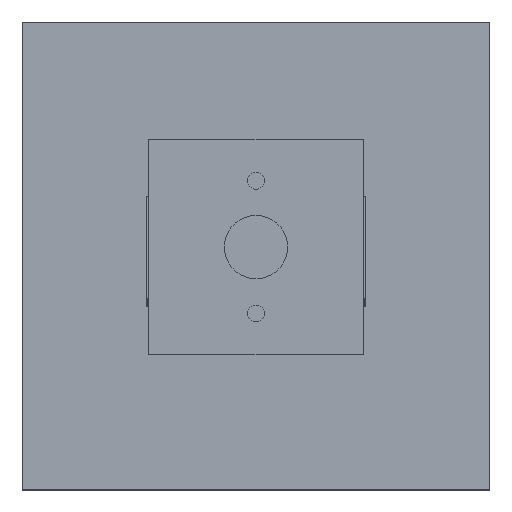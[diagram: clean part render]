
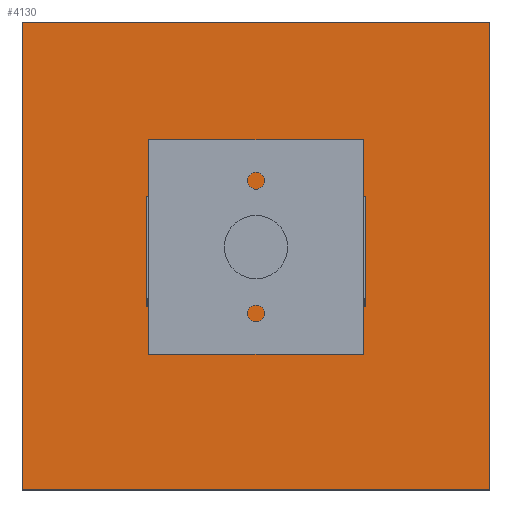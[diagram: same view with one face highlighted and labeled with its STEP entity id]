
A CAD part, top view. The second image highlights one B-rep face of the part: STEP entity #4130.
In plain terms, the highlighted planar face has unit normal (0, 0, 1).
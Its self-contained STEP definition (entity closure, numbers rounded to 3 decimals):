
#4130 = ADVANCED_FACE( '', ( #8896, #8897 ), #8898, .F. );
#8896 = FACE_BOUND( '', #14261, .T. );
#8897 = FACE_OUTER_BOUND( '', #14262, .T. );
#8898 = PLANE( '', #14263 );
#14261 = EDGE_LOOP( '', ( #27089 ) );
#14262 = EDGE_LOOP( '', ( #27090, #27091, #27092, #27093 ) );
#14263 = AXIS2_PLACEMENT_3D( '', #27094, #27095, #27096 );
#27089 = ORIENTED_EDGE( '', *, *, #35036, .F. );
#27090 = ORIENTED_EDGE( '', *, *, #37204, .T. );
#27091 = ORIENTED_EDGE( '', *, *, #34950, .F. );
#27092 = ORIENTED_EDGE( '', *, *, #32984, .F. );
#27093 = ORIENTED_EDGE( '', *, *, #37974, .T. );
#27094 = CARTESIAN_POINT( '', ( 60., 60., -1279.36 ) );
#27095 = DIRECTION( '', ( 0., 0., -1. ) );
#27096 = DIRECTION( '', ( -1., 0., 0. ) );
#32984 = EDGE_CURVE( '', #39892, #39893, #39894, .T. );
#34950 = EDGE_CURVE( '', #39893, #43269, #43273, .T. );
#35036 = EDGE_CURVE( '', #43406, #43406, #43407, .F. );
#37204 = EDGE_CURVE( '', #46618, #43269, #46619, .T. );
#37974 = EDGE_CURVE( '', #39892, #46618, #47599, .T. );
#39892 = VERTEX_POINT( '', #49987 );
#39893 = VERTEX_POINT( '', #49988 );
#39894 = LINE( '', #49989, #49990 );
#43269 = VERTEX_POINT( '', #54890 );
#43273 = LINE( '', #54896, #54897 );
#43406 = VERTEX_POINT( '', #55089 );
#43407 = CIRCLE( '', #55090, 7.52 );
#46618 = VERTEX_POINT( '', #59885 );
#46619 = LINE( '', #59886, #59887 );
#47599 = LINE( '', #61366, #61367 );
#49987 = CARTESIAN_POINT( '', ( 60., 60., -1279.36 ) );
#49988 = CARTESIAN_POINT( '', ( 60., -60., -1279.36 ) );
#49989 = CARTESIAN_POINT( '', ( 60., 60., -1279.36 ) );
#49990 = VECTOR( '', #63475, 1000. );
#54890 = CARTESIAN_POINT( '', ( -60., -60., -1279.36 ) );
#54896 = CARTESIAN_POINT( '', ( 60., -60., -1279.36 ) );
#54897 = VECTOR( '', #65261, 1000. );
#55089 = CARTESIAN_POINT( '', ( -7.52, 0., -1279.36 ) );
#55090 = AXIS2_PLACEMENT_3D( '', #65333, #65334, #65335 );
#59885 = CARTESIAN_POINT( '', ( -60., 60., -1279.36 ) );
#59886 = CARTESIAN_POINT( '', ( -60., 60., -1279.36 ) );
#59887 = VECTOR( '', #67178, 1000. );
#61366 = CARTESIAN_POINT( '', ( 60., 60., -1279.36 ) );
#61367 = VECTOR( '', #67783, 1000. );
#63475 = DIRECTION( '', ( 0., -1., 0. ) );
#65261 = DIRECTION( '', ( -1., 0., 0. ) );
#65333 = CARTESIAN_POINT( '', ( 0., 0., -1279.36 ) );
#65334 = DIRECTION( '', ( 0., 0., -1. ) );
#65335 = DIRECTION( '', ( -1., 0., 0. ) );
#67178 = DIRECTION( '', ( 0., -1., 0. ) );
#67783 = DIRECTION( '', ( -1., 0., 0. ) );
